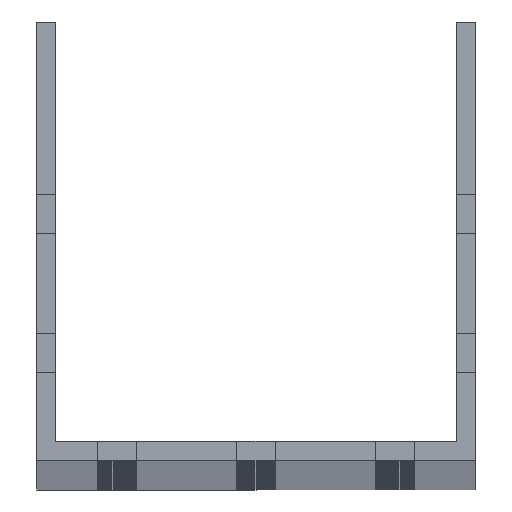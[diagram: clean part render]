
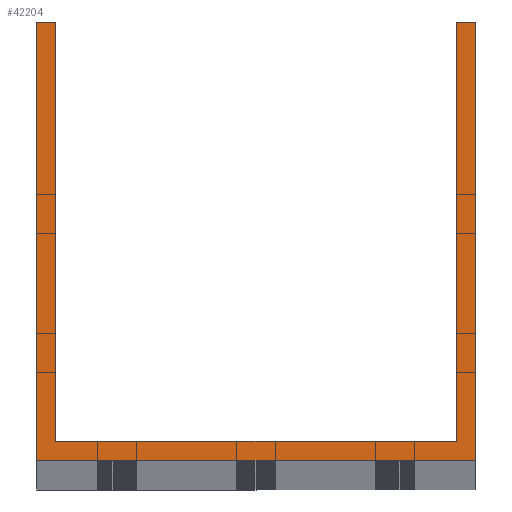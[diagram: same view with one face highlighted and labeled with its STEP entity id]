
A CAD part, top view. The second image highlights one B-rep face of the part: STEP entity #42204.
In plain terms, the highlighted planar face has unit normal (0, 0, 1).
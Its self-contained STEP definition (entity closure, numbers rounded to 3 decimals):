
#640 = ORIENTED_EDGE ( 'NONE', *, *, #60305, .F. ) ;
#3284 = CARTESIAN_POINT ( 'NONE',  ( -36., 3.5, 1500. ) ) ;
#7480 = ORIENTED_EDGE ( 'NONE', *, *, #11064, .T. ) ;
#7889 = VECTOR ( 'NONE', #61822, 1000. ) ;
#8336 = EDGE_CURVE ( 'NONE', #22829, #22409, #11976, .T. ) ;
#8983 = CARTESIAN_POINT ( 'NONE',  ( -39.5, 0., 1500. ) ) ;
#8998 = VERTEX_POINT ( 'NONE', #8983 ) ;
#11064 = EDGE_CURVE ( 'NONE', #8998, #18094, #68408, .T. ) ;
#11258 = CARTESIAN_POINT ( 'NONE',  ( -39.5, 79., 1500. ) ) ;
#11976 = LINE ( 'NONE', #37369, #60877 ) ;
#12435 = DIRECTION ( 'NONE',  ( 0., -1., 0. ) ) ;
#14144 = CARTESIAN_POINT ( 'NONE',  ( 36., 3.5, 1500. ) ) ;
#15651 = LINE ( 'NONE', #47645, #45995 ) ;
#15945 = VERTEX_POINT ( 'NONE', #28494 ) ;
#16538 = DIRECTION ( 'NONE',  ( 0., -1., 0. ) ) ;
#18094 = VERTEX_POINT ( 'NONE', #53748 ) ;
#19589 = EDGE_CURVE ( 'NONE', #22409, #20232, #49264, .T. ) ;
#20232 = VERTEX_POINT ( 'NONE', #42079 ) ;
#21146 = LINE ( 'NONE', #33985, #33654 ) ;
#22409 = VERTEX_POINT ( 'NONE', #14144 ) ;
#22829 = VERTEX_POINT ( 'NONE', #3284 ) ;
#23394 = CARTESIAN_POINT ( 'NONE',  ( -39.5, 79., 1500. ) ) ;
#26686 = DIRECTION ( 'NONE',  ( 1., 0., 0. ) ) ;
#27067 = VERTEX_POINT ( 'NONE', #66769 ) ;
#28494 = CARTESIAN_POINT ( 'NONE',  ( -36., 79., 1500. ) ) ;
#29597 = VECTOR ( 'NONE', #44390, 1000. ) ;
#31508 = VECTOR ( 'NONE', #16538, 1000. ) ;
#31569 = FACE_OUTER_BOUND ( 'NONE', #60145, .T. ) ;
#32522 = EDGE_CURVE ( 'NONE', #15945, #27067, #48460, .T. ) ;
#33654 = VECTOR ( 'NONE', #12435, 1000. ) ;
#33985 = CARTESIAN_POINT ( 'NONE',  ( -39.5, 79., 1500. ) ) ;
#37369 = CARTESIAN_POINT ( 'NONE',  ( -39.5, 3.5, 1500. ) ) ;
#37819 = DIRECTION ( 'NONE',  ( 0., 0., 1. ) ) ;
#39048 = DIRECTION ( 'NONE',  ( -1., 0., 0. ) ) ;
#41172 = ORIENTED_EDGE ( 'NONE', *, *, #8336, .F. ) ;
#41399 = VECTOR ( 'NONE', #57515, 1000. ) ;
#42079 = CARTESIAN_POINT ( 'NONE',  ( 36., 79., 1500. ) ) ;
#42204 = ADVANCED_FACE ( 'NONE', ( #31569 ), #43044, .T. ) ;
#42507 = ORIENTED_EDGE ( 'NONE', *, *, #45888, .T. ) ;
#43044 = PLANE ( 'NONE',  #46810 ) ;
#43878 = CARTESIAN_POINT ( 'NONE',  ( 39.5, 79., 1500. ) ) ;
#44390 = DIRECTION ( 'NONE',  ( 0., 1., 0. ) ) ;
#44925 = ORIENTED_EDGE ( 'NONE', *, *, #32522, .T. ) ;
#45166 = ORIENTED_EDGE ( 'NONE', *, *, #53964, .T. ) ;
#45486 = VECTOR ( 'NONE', #39048, 1000. ) ;
#45888 = EDGE_CURVE ( 'NONE', #18094, #67882, #15651, .T. ) ;
#45995 = VECTOR ( 'NONE', #62961, 1000. ) ;
#46810 = AXIS2_PLACEMENT_3D ( 'NONE', #52779, #37819, #26686 ) ;
#47645 = CARTESIAN_POINT ( 'NONE',  ( 39.5, 79., 1500. ) ) ;
#48460 = LINE ( 'NONE', #11258, #41399 ) ;
#49264 = LINE ( 'NONE', #53800, #29597 ) ;
#52779 = CARTESIAN_POINT ( 'NONE',  ( 0., 0., 1500. ) ) ;
#53748 = CARTESIAN_POINT ( 'NONE',  ( 39.5, 0., 1500. ) ) ;
#53800 = CARTESIAN_POINT ( 'NONE',  ( 36., 79., 1500. ) ) ;
#53964 = EDGE_CURVE ( 'NONE', #67882, #20232, #55396, .T. ) ;
#54091 = LINE ( 'NONE', #54431, #31508 ) ;
#54431 = CARTESIAN_POINT ( 'NONE',  ( -36., 79., 1500. ) ) ;
#55396 = LINE ( 'NONE', #23394, #45486 ) ;
#57515 = DIRECTION ( 'NONE',  ( -1., 0., 0. ) ) ;
#59729 = ORIENTED_EDGE ( 'NONE', *, *, #59758, .T. ) ;
#59758 = EDGE_CURVE ( 'NONE', #27067, #8998, #21146, .T. ) ;
#60145 = EDGE_LOOP ( 'NONE', ( #640, #44925, #59729, #7480, #42507, #45166, #65626, #41172 ) ) ;
#60305 = EDGE_CURVE ( 'NONE', #15945, #22829, #54091, .T. ) ;
#60877 = VECTOR ( 'NONE', #63808, 1000. ) ;
#61822 = DIRECTION ( 'NONE',  ( 1., 0., 0. ) ) ;
#62500 = CARTESIAN_POINT ( 'NONE',  ( -39.5, 0., 1500. ) ) ;
#62961 = DIRECTION ( 'NONE',  ( 0., 1., 0. ) ) ;
#63808 = DIRECTION ( 'NONE',  ( 1., 0., 0. ) ) ;
#65626 = ORIENTED_EDGE ( 'NONE', *, *, #19589, .F. ) ;
#66769 = CARTESIAN_POINT ( 'NONE',  ( -39.5, 79., 1500. ) ) ;
#67882 = VERTEX_POINT ( 'NONE', #43878 ) ;
#68408 = LINE ( 'NONE', #62500, #7889 ) ;
